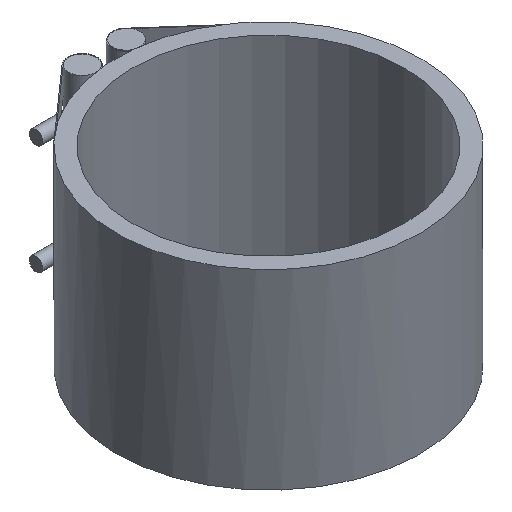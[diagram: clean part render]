
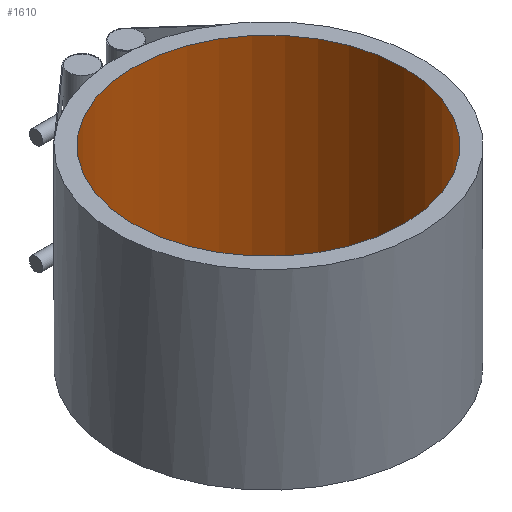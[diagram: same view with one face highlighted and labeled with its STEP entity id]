
A CAD part, isometric view. The second image highlights one B-rep face of the part: STEP entity #1610.
In plain terms, the highlighted cylindrical face has radius 100 mm (diameter 200 mm), a full revolution.
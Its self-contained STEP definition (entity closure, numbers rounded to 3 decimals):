
#364=CYLINDRICAL_SURFACE('',#1752,100.);
#418=FACE_BOUND('',#594,.T.);
#466=FACE_OUTER_BOUND('',#593,.T.);
#593=EDGE_LOOP('',(#1313));
#594=EDGE_LOOP('',(#1314));
#691=CIRCLE('',#1753,100.);
#692=CIRCLE('',#1754,100.);
#831=VERTEX_POINT('',#2856);
#832=VERTEX_POINT('',#2858);
#1007=EDGE_CURVE('',#831,#831,#691,.T.);
#1008=EDGE_CURVE('',#832,#832,#692,.T.);
#1313=ORIENTED_EDGE('',*,*,#1007,.F.);
#1314=ORIENTED_EDGE('',*,*,#1008,.F.);
#1610=ADVANCED_FACE('',(#466,#418),#364,.F.);
#1752=AXIS2_PLACEMENT_3D('',#2855,#2089,#2090);
#1753=AXIS2_PLACEMENT_3D('',#2857,#2091,#2092);
#1754=AXIS2_PLACEMENT_3D('',#2859,#2093,#2094);
#2089=DIRECTION('center_axis',(0.,0.,1.));
#2090=DIRECTION('ref_axis',(-1.,0.,0.));
#2091=DIRECTION('center_axis',(0.,0.,1.));
#2092=DIRECTION('ref_axis',(-1.,0.,0.));
#2093=DIRECTION('center_axis',(0.,0.,-1.));
#2094=DIRECTION('ref_axis',(-1.,0.,0.));
#2855=CARTESIAN_POINT('Origin',(0.,0.,0.));
#2856=CARTESIAN_POINT('',(100.,0.,-70.5));
#2857=CARTESIAN_POINT('Origin',(0.,0.,-70.5));
#2858=CARTESIAN_POINT('',(100.,0.,70.5));
#2859=CARTESIAN_POINT('Origin',(0.,0.,70.5));
